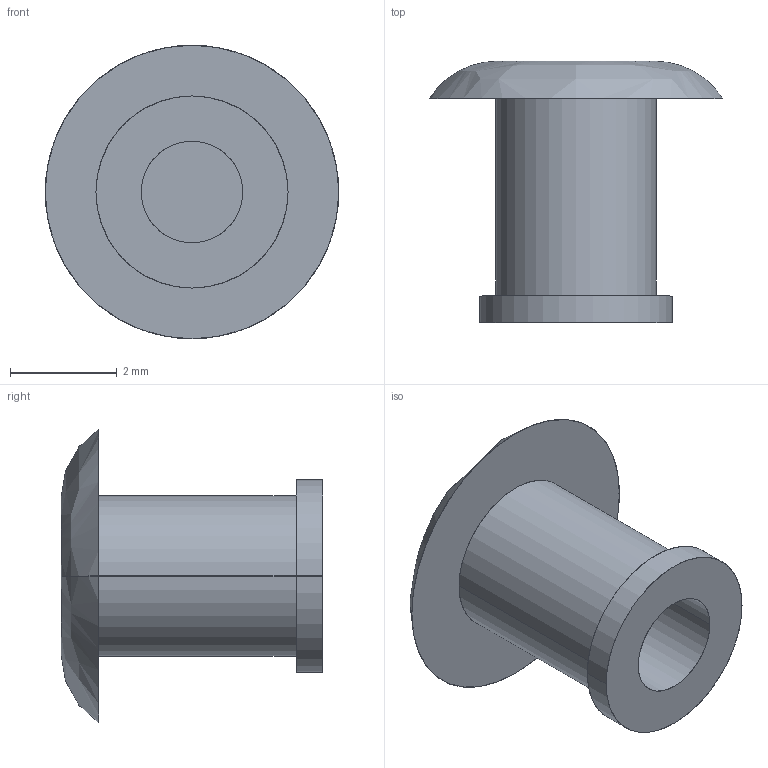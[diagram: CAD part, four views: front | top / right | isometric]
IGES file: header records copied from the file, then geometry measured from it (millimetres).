
Start section: SolidWorks IGES FILE using analytic representation for surfaces
Global section: file name: C:\Documents and Settings\lecoutey\Bureau\PR 1305\305.303.00.IGS; native system: SolidWorks 2004 by SolidWorks Corporation; preprocessor: Version 5.3; author: lecoutey; date: 050408.171956; units: millimetre
Bounding box: 5.5 x 4.9 x 5.5 mm (x, y, z)
Surface area: 118.4 mm2 (no closed solid volume)
Topology: 0 solids, 0 shells, 13 faces, 288 edges, 288 vertices
Faces by surface type: bspline 7, revolution 6
